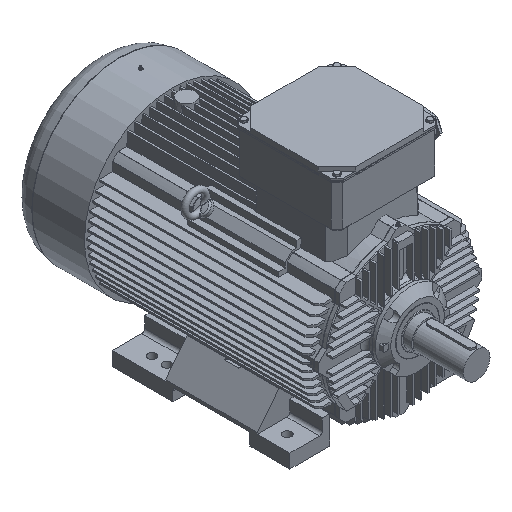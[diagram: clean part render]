
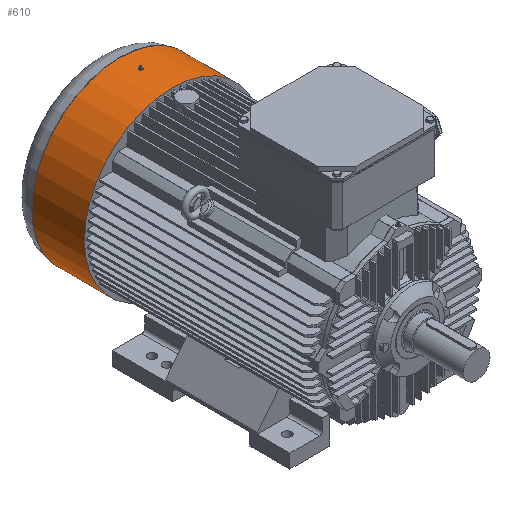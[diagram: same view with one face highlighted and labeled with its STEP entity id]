
A CAD part, isometric view. The second image highlights one B-rep face of the part: STEP entity #610.
In plain terms, the highlighted cylindrical face has radius 298 mm (diameter 596 mm), a full revolution.
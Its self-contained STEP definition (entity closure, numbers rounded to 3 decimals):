
#610 = ADVANCED_FACE( '', ( #2456, #2457 ), #2458, .T. );
#2456 = FACE_OUTER_BOUND( '', #5632, .T. );
#2457 = FACE_OUTER_BOUND( '', #5633, .T. );
#2458 = CYLINDRICAL_SURFACE( '', #5634, 298. );
#5632 = EDGE_LOOP( '', ( #14249 ) );
#5633 = EDGE_LOOP( '', ( #14250 ) );
#5634 = AXIS2_PLACEMENT_3D( '', #14251, #14252, #14253 );
#14249 = ORIENTED_EDGE( '', *, *, #24776, .F. );
#14250 = ORIENTED_EDGE( '', *, *, #24777, .T. );
#14251 = CARTESIAN_POINT( '', ( 0., 752.12, 0. ) );
#14252 = DIRECTION( '', ( 0., 1., 0. ) );
#14253 = DIRECTION( '', ( 0., 0., 1. ) );
#24776 = EDGE_CURVE( '', #29111, #29111, #29112, .T. );
#24777 = EDGE_CURVE( '', #29113, #29113, #29114, .T. );
#29111 = VERTEX_POINT( '', #36296 );
#29112 = CIRCLE( '', #36297, 298. );
#29113 = VERTEX_POINT( '', #36298 );
#29114 = CIRCLE( '', #36299, 298. );
#36296 = CARTESIAN_POINT( '', ( 0., 752.12, 298. ) );
#36297 = AXIS2_PLACEMENT_3D( '', #50476, #50477, #50478 );
#36298 = CARTESIAN_POINT( '', ( 0., 930., -298. ) );
#36299 = AXIS2_PLACEMENT_3D( '', #50479, #50480, #50481 );
#50476 = CARTESIAN_POINT( '', ( 0., 752.12, 0. ) );
#50477 = DIRECTION( '', ( 0., -1., 0. ) );
#50478 = DIRECTION( '', ( 0., 0., 1. ) );
#50479 = CARTESIAN_POINT( '', ( 0., 930., 0. ) );
#50480 = DIRECTION( '', ( 0., -1., 0. ) );
#50481 = DIRECTION( '', ( 0., 0., -1. ) );
